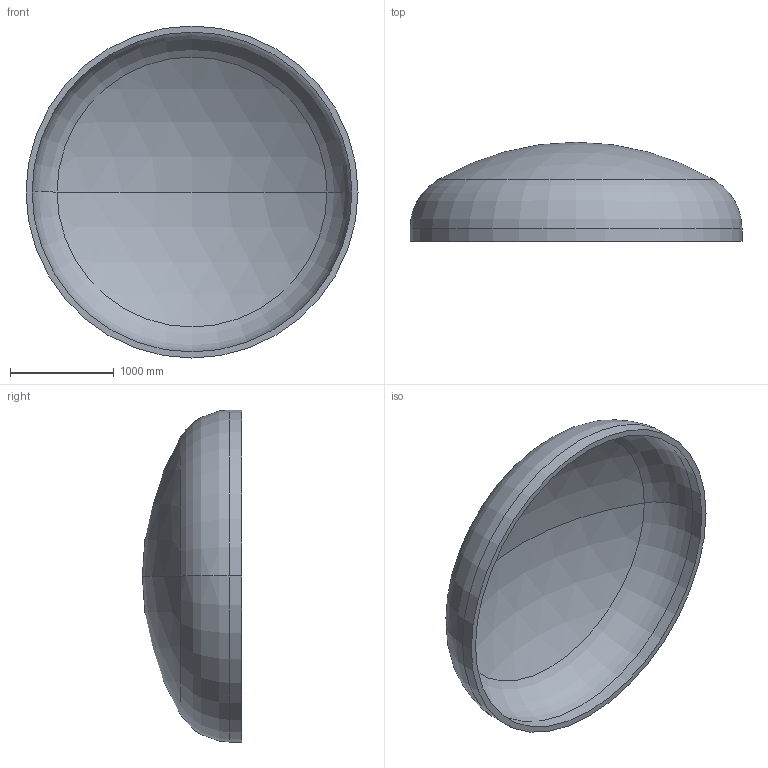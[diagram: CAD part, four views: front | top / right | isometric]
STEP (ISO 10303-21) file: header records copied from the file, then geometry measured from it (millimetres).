
FILE_DESCRIPTION (( 'STEP AP203' ), '1' );
FILE_NAME ('DIN 28013 Korbbogenform_-_Boden DIN 28013 - 3200 x 120 - I - s=58.step', '2016-07-01T18:45:08', ( '' ), ( '' ), 'SwSTEP 2.0', 'SolidWorks 2013', '' );
FILE_SCHEMA (( 'CONFIG_CONTROL_DESIGN' ));
Length unit declared in the file: millimetre
Products named in the file (1): DIN 28013 Korbbogenform_-_Boden DIN 28013 - 3200 x 120 - I - s=58
Bounding box: 3200 x 955.25 x 3200 mm (x, y, z)
Volume: 698784518.5 mm3; surface area: 24675566.3 mm2
Topology: 1 solids, 1 shells, 13 faces, 24 edges, 14 vertices
Faces by surface type: torus 4, cylinder 4, sphere 4, plane 1
Entity records: 407 total; most frequent: DIRECTION 72, CARTESIAN_POINT 52, ORIENTED_EDGE 48, AXIS2_PLACEMENT_3D 34, EDGE_CURVE 24, CIRCLE 20, EDGE_LOOP 14, VERTEX_POINT 14
